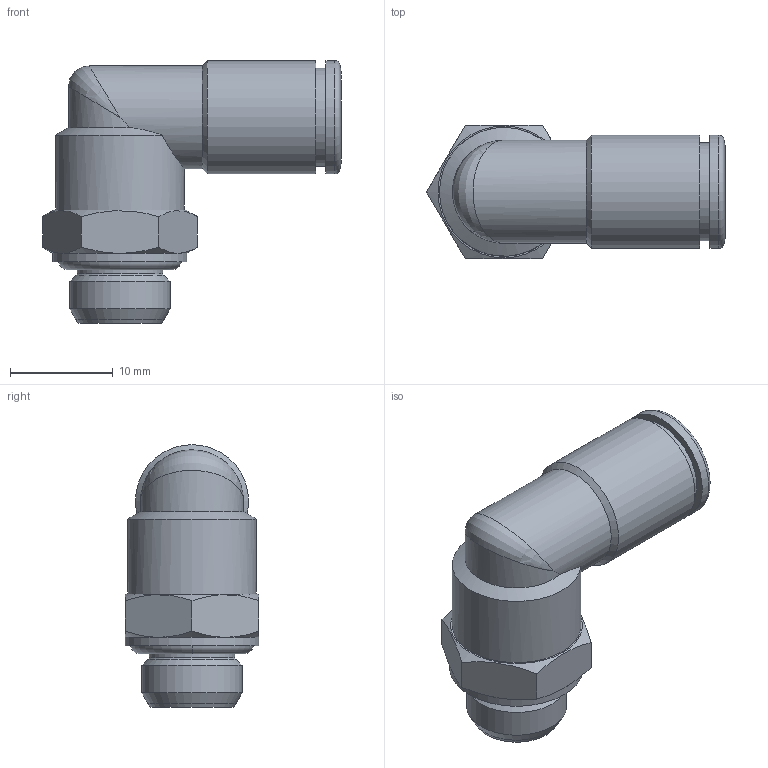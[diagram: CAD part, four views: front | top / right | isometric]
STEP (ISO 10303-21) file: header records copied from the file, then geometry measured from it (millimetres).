
FILE_DESCRIPTION(('Bauteilbeschreibung','HiCAD-Model','HiCAD-STEP-TRANSLATION','Bauteilbeschreibung'),'2;1');
FILE_NAME('B:/ABGLEICH/ZEICHNUNGEN/STEP FÜR INTERNET/STEP/202203_IPSO_022_6_1-8.STP','2011-09-15T14:55:38+00:00',('Konstrukteur'),('Konstrukteur Firma GmbH'),' HiCAD neXt 2008, Step 3.1.1401.2J ','HiCAD neXt 2008','confidential');
FILE_SCHEMA(('AUTOMOTIVE_DESIGN { 1 2 10303 214 0 1 1 1 }'));
Length unit declared in the file: millimetre
Products named in the file (7): A02203_IPSO_022_6_1_8; OR 7_2X1_9; A14602_N2_GEW___1_8_1_8; A146020N20GEW0001080108; G 1_8; DR6_1_NEU; R202203_N2
Assembly tree (6 placements, depth 3):
  A02203_IPSO_022_6_1_8
    OR 7_2X1_9
    A14602_N2_GEW___1_8_1_8
    A146020N20GEW0001080108
      G 1_8
    DR6_1_NEU
    R202203_N2
Bounding box: 29.01 x 13 x 25.5 mm (x, y, z)
Volume: 2712.8 mm3; surface area: 3934.3 mm2
Topology: 5 solids, 5 shells, 77 faces, 165 edges, 98 vertices
Faces by surface type: cone 27, cylinder 23, plane 19, torus 7, bspline 1
Full cylindrical faces by diameter (mm): 4 x1, 5.5 x1, 6 x1, 6.1 x1, 6.2 x1, 8.3 x2, 8.566 x2, 9 x3, 9.5 x1, 9.6 x1, 9.728 x1, 10 x1, 10.1 x2, 11 x2, 12.5 x1, 13 x1
Entity records: 3457 total; most frequent: CARTESIAN_POINT 1445, DIRECTION 328, ORIENTED_EDGE 206, AXIS2_PLACEMENT_3D 161, EDGE_LOOP 135, EDGE_CURVE 103, COLOUR_RGB 94, PRESENTATION_STYLE_ASSIGNMENT 94
